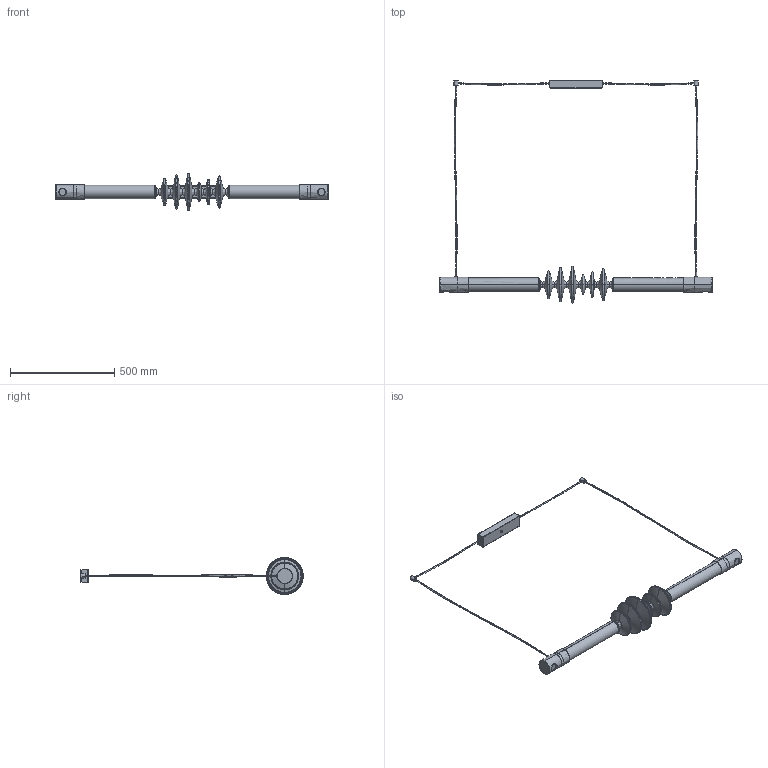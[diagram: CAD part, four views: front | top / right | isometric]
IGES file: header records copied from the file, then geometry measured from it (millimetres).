
Start section: SolidWorks IGES file using analytic representation for surfaces
Global section: file name: G:\Drive condivisi\Ufficio Tecnico\Research\X21 Filamento\Progetto\ATC-X21-S4\Architetti\ATP-X21-S400-R02 - Architetti V2.IGS; native system: SolidWorks 2025; preprocessor: SolidWorks 2025; author: Tecnico01; date: 260430.110355; units: millimetre
Bounding box: 1307 x 1068 x 177 mm (x, y, z)
Surface area: 1027209.9 mm2 (no closed solid volume)
Topology: 0 solids, 0 shells, 687 faces, 9678 edges, 9670 vertices
Faces by surface type: revolution 349, bspline 338
